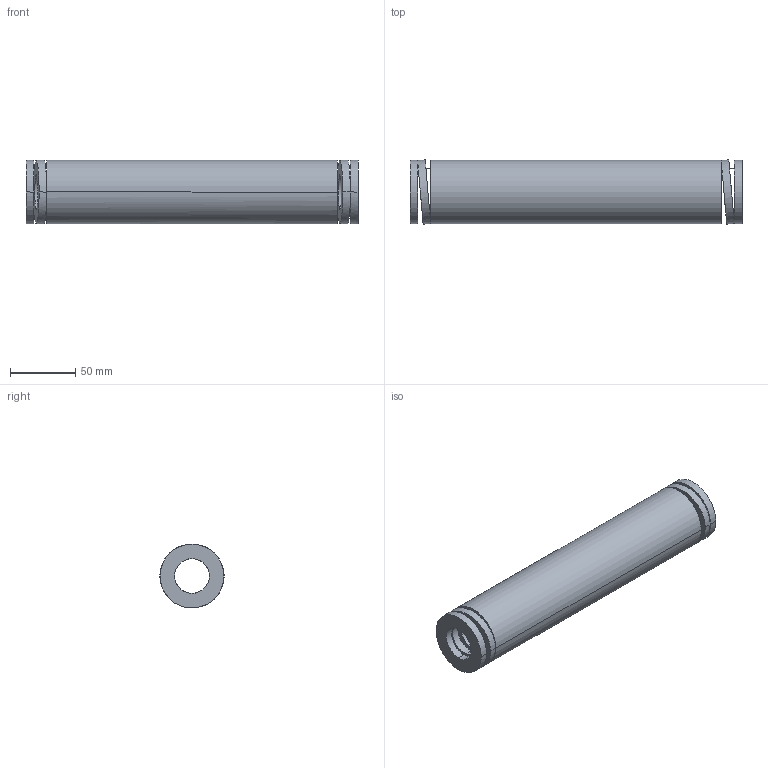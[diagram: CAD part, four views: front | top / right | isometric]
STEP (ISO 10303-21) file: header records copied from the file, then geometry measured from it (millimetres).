
FILE_DESCRIPTION(('CATIA V5 STEP Exchange'),'2;1');
FILE_NAME('C:\Users\Utente\Desktop\IO LAVORO\3D X SITO CF\X SITO\3D files 392B\392-B50-254.stp','2021-08-13T11:23:36+00:00',('none'),('none'),'CATIA Version 5 Release 20 GA (IN-10)','CATIA V5 STEP AP203','none');
FILE_SCHEMA(('CONFIG_CONTROL_DESIGN'));
Length unit declared in the file: millimetre
Products named in the file (1): 392-B50-254
Bounding box: 254 x 49.12 x 48.8 mm (x, y, z)
Volume: 322594.3 mm3; surface area: 71276.5 mm2
Topology: 1 solids, 1 shells, 38 faces, 92 edges, 64 vertices
Faces by surface type: cylinder 28, plane 10
Entity records: 1638 total; most frequent: CARTESIAN_POINT 761, ORIENTED_EDGE 184, DIRECTION 123, EDGE_CURVE 92, VERTEX_POINT 64, AXIS2_PLACEMENT_3D 58, EDGE_LOOP 56, B_SPLINE_CURVE_WITH_KNOTS 45
